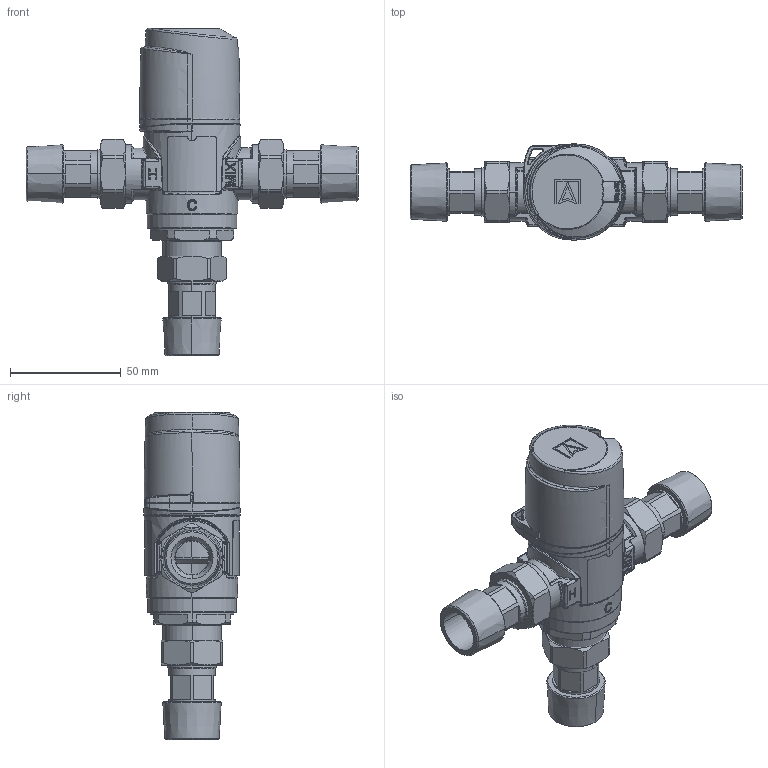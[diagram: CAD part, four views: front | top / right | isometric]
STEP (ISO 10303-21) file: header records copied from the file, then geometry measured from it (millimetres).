
FILE_DESCRIPTION (( 'STEP AP214' ), '1' );
FILE_NAME ('ATM341_Zawor_termostatyczny_DN15_1234144_0_3D_AFRISO.STEP', '2024-03-18T11:33:26', ( '' ), ( '' ), 'SwSTEP 2.0', 'SolidWorks 2022', '' );
FILE_SCHEMA (( 'AUTOMOTIVE_DESIGN' ));
Length unit declared in the file: millimetre
Products named in the file (15): 67197; 67081; ATM341_Zawor_termostatyczny_DN15_1234144_0_3D_AFRISO; 67079; 41180; 77176_oa_1; Zestaw_srubunkow_1220110_0_3D_AFRISO; 3_4inch; 77238_oa_2; 21779; 77238_oa_3; 67080; 77110_oa_0; 67082; 2
Assembly tree (16 placements, depth 3):
  ATM341_Zawor_termostatyczny_DN15_1234144_0_3D_AFRISO
    41180
    67082
    77110_oa_0
    67079
    21779
    77176_oa_1
    67081
    67197
    77238_oa_2
    77238_oa_3
    67080
    Zestaw_srubunkow_1220110_0_3D_AFRISO  x3
      2
      3_4inch
Bounding box: 150 x 43.4 x 147.75 mm (x, y, z)
Volume: 86661.3 mm3; surface area: 89796.7 mm2
Topology: 15 solids, 478 shells, 3466 faces, 9695 edges, 6511 vertices
Faces by surface type: bspline 1270, cylinder 1111, plane 760, cone 311, torus 14
Entity records: 172353 total; most frequent: CARTESIAN_POINT 81051, ORIENTED_EDGE 15586, DIRECTION 12698, EDGE_CURVE 8913, VERTEX_POINT 6178, AXIS2_PLACEMENT_3D 4960, EDGE_LOOP 3330, ADVANCED_FACE 3245
